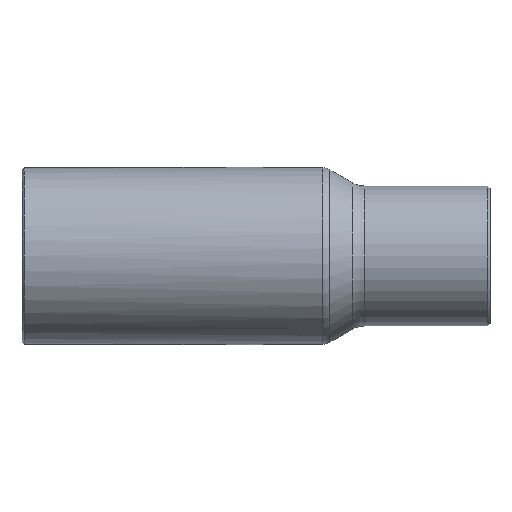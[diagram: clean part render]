
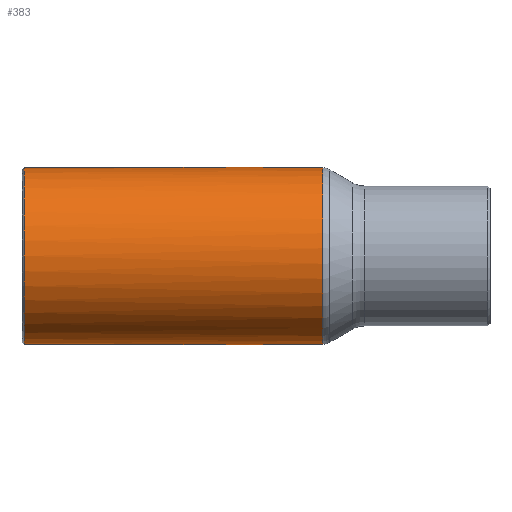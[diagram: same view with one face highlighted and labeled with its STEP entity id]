
A CAD part, front view. The second image highlights one B-rep face of the part: STEP entity #383.
In plain terms, the highlighted cylindrical face has radius 7.25 mm (diameter 14.5 mm), a full revolution.
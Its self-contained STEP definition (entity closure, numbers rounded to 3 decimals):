
#121=CARTESIAN_POINT('',(0.,0.0,-7.25));
#122=VERTEX_POINT('',#121);
#123=CARTESIAN_POINT('',(0.,0.0,7.25));
#124=VERTEX_POINT('',#123);
#309=CARTESIAN_POINT('',(-17.0,7.25,0.));
#310=VERTEX_POINT('',#309);
#311=CARTESIAN_POINT('',(-17.0,0.0,0.0));
#312=DIRECTION('',(-1.0,0.0,0.0));
#313=DIRECTION('',(0.0,-1.0,0.0));
#314=AXIS2_PLACEMENT_3D('',#311,#312,#313);
#315=CIRCLE('',#314,7.25);
#316=EDGE_CURVE('',#310,#310,#315,.T.);
#341=CARTESIAN_POINT('',(1.95,0.0,0.0));
#342=DIRECTION('',(1.0,0.0,0.0));
#343=DIRECTION('',(0.0,1.0,0.0));
#344=AXIS2_PLACEMENT_3D('',#341,#342,#343);
#345=CYLINDRICAL_SURFACE('',#344,7.25);
#346=CARTESIAN_POINT('',(7.404,5.803,4.346));
#347=VERTEX_POINT('',#346);
#348=CARTESIAN_POINT('',(7.404,5.803,-4.346));
#349=VERTEX_POINT('',#348);
#350=CARTESIAN_POINT('',(7.404,0.0,0.0));
#351=DIRECTION('',(1.0,0.0,0.0));
#352=DIRECTION('',(0.0,-1.0,0.0));
#353=AXIS2_PLACEMENT_3D('',#350,#351,#352);
#354=CIRCLE('',#353,7.25);
#355=EDGE_CURVE('',#347,#349,#354,.T.);
#356=ORIENTED_EDGE('',*,*,#355,.F.);
#357=CARTESIAN_POINT('',(0.,0.0,0.0));
#358=DIRECTION('',(-0.617,0.787,0.));
#359=DIRECTION('',(0.787,0.617,0.0));
#360=AXIS2_PLACEMENT_3D('',#357,#358,#359);
#361=ELLIPSE('',#360,11.753,7.25);
#362=EDGE_CURVE('',#124,#347,#361,.T.);
#363=ORIENTED_EDGE('',*,*,#362,.F.);
#364=CARTESIAN_POINT('',(0.,0.0,0.0));
#365=DIRECTION('',(0.617,0.787,0.));
#366=DIRECTION('',(-0.787,0.617,0.0));
#367=AXIS2_PLACEMENT_3D('',#364,#365,#366);
#368=ELLIPSE('',#367,11.753,7.25);
#369=EDGE_CURVE('',#122,#124,#368,.T.);
#370=ORIENTED_EDGE('',*,*,#369,.F.);
#371=CARTESIAN_POINT('',(0.,0.0,0.0));
#372=DIRECTION('',(-0.617,0.787,0.));
#373=DIRECTION('',(0.787,0.617,0.0));
#374=AXIS2_PLACEMENT_3D('',#371,#372,#373);
#375=ELLIPSE('',#374,11.753,7.25);
#376=EDGE_CURVE('',#349,#122,#375,.T.);
#377=ORIENTED_EDGE('',*,*,#376,.F.);
#378=EDGE_LOOP('',(#356,#363,#370,#377));
#379=FACE_OUTER_BOUND('',#378,.T.);
#380=ORIENTED_EDGE('',*,*,#316,.F.);
#381=EDGE_LOOP('',(#380));
#382=FACE_BOUND('',#381,.T.);
#383=ADVANCED_FACE('',(#379,#382),#345,.T.);
